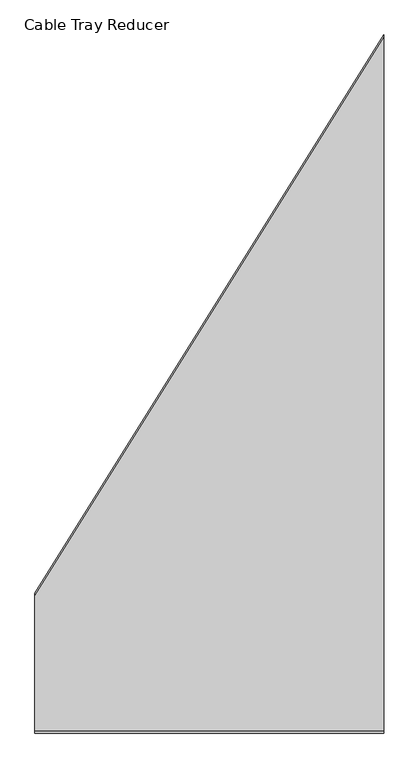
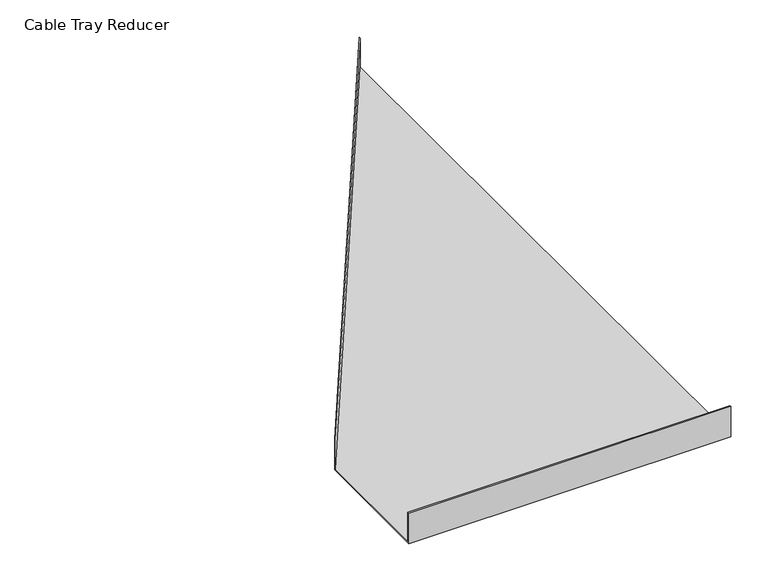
"""IFC4 building model written with IfcOpenShell, lengths in millimetres: cable carrier fitting geometry, Cable Tray Reducer : ELEC_MAIN_CT_N2402."""

import ifcopenshell
import ifcopenshell.guid

model = None  # the IFC model being written
_history = None  # IfcOwnerHistory: only IFC2X3 demands one
_inside = {}  # id of a spatial element -> (the spatial element, [elements in it])
_under = {}  # id of a project, library or spatial element -> (it, [spatial elements below it])
_declared = {}  # id of a project -> (the project, [libraries it declares])
_typed = {}  # id of a type object -> (the type object, [elements of that type])
_made_of = {}  # id of a material, layer set ... -> (it, [elements and type objects made of it])


def new_model(schema):
    """Start an empty IFC model of exactly this schema.

    Asked for "IFC4X3", IfcOpenShell would pick the latest addendum, in which some entities
    have other attributes; the version numbers below select the first issue.
    IFC2X3 requires an IfcOwnerHistory on every rooted entity: one is made here for all.
    """
    global model, _history
    if schema == "IFC4X3":
        model = ifcopenshell.file(schema_version=(4, 3, 0, 0))
    else:
        model = ifcopenshell.file(schema=schema)
    _inside.clear()
    _under.clear()
    _declared.clear()
    _typed.clear()
    _made_of.clear()
    _history = None
    if model.schema == "IFC2X3":
        org = make("IfcOrganization", Name="unknown")
        user = make(
            "IfcPersonAndOrganization",
            ThePerson=make("IfcPerson", FamilyName="unknown"),
            TheOrganization=org,
        )
        app = make(
            "IfcApplication",
            ApplicationDeveloper=org,
            Version="unknown",
            ApplicationFullName="unknown",
            ApplicationIdentifier="unknown",
        )
        _history = make(
            "IfcOwnerHistory",
            OwningUser=user,
            OwningApplication=app,
            ChangeAction="ADDED",
            CreationDate=0,
        )
    return model


def make(cls, **values):
    """One entity of the class cls with the attributes given. An attribute that is None is left unset."""
    return model.create_entity(
        cls, **{name: value for name, value in values.items() if value is not None}
    )


def rooted(cls, **values):
    """An entity with a GlobalId (a new one), such as an element, a storey or a relation."""
    return make(cls, GlobalId=ifcopenshell.guid.new(), OwnerHistory=_history, **values)


def si_unit(unit_type, name, prefix=None):
    """IfcSIUnit, for example si_unit("LENGTHUNIT", "METRE", prefix="MILLI")."""
    return make("IfcSIUnit", UnitType=unit_type, Prefix=prefix, Name=name)


def assignment(units):
    """IfcUnitAssignment: the units of a project."""
    return None if units is None else make("IfcUnitAssignment", Units=units)


def point(xyz):
    """IfcCartesianPoint."""
    return None if xyz is None else make("IfcCartesianPoint", Coordinates=xyz)


def direction(xyz):
    """IfcDirection."""
    return None if xyz is None else make("IfcDirection", DirectionRatios=xyz)


def frame(location, z_axis=None, x_axis=None):
    """IfcAxis2Placement3D, a coordinate frame: its origin and axes. An axis left out is left unset."""
    return make(
        "IfcAxis2Placement3D",
        Location=point(location),
        Axis=direction(z_axis),
        RefDirection=direction(x_axis),
    )


def origin():
    """The frame at (0, 0, 0) with its axes left unset."""
    return frame((0.0, 0.0, 0.0))


def place(relative_to, where):
    """IfcLocalPlacement: puts the frame where relative to a parent placement (None: the world)."""
    return make(
        "IfcLocalPlacement", PlacementRelTo=relative_to, RelativePlacement=where
    )


def context(
    kind, dimensions, precision=None, world=None, true_north=None, identifier=None
):
    """IfcGeometricRepresentationContext, for example the 3D "Model" context."""
    return make(
        "IfcGeometricRepresentationContext",
        ContextIdentifier=identifier,
        ContextType=kind,
        CoordinateSpaceDimension=dimensions,
        Precision=precision,
        WorldCoordinateSystem=world,
        TrueNorth=true_north,
    )


def project(units=None, contexts=None):
    """IfcProject with its units and contexts."""
    return rooted(
        "IfcProject",
        Name="project",
        RepresentationContexts=contexts,
        UnitsInContext=assignment(units),
    )


def spatial(cls, under=None, at=None, **own):
    """A site, building, storey or space (cls), placed at a placement, below another one or the project."""
    s = rooted(cls, ObjectPlacement=at, **own)
    if under is not None:
        _under.setdefault(under.id(), (under, []))[1].append(s)
    return s


def faces_of(points, faces, orient=None, outer=None):
    """IfcFace entities. A face is a list of loops; a loop is a list of indices into points, from 0.

    orient and outer hold one flag for each loop. By default every Orientation is true, the
    first loop of a face is its IfcFaceOuterBound and the others are IfcFaceBound.
    """
    made = []
    for i, loops in enumerate(faces):
        bounds = []
        for j, loop in enumerate(loops):
            is_outer = j == 0 if outer is None else outer[i][j]
            bounds.append(
                make(
                    "IfcFaceOuterBound" if is_outer else "IfcFaceBound",
                    Bound=make("IfcPolyLoop", Polygon=[points[k] for k in loop]),
                    Orientation=True if orient is None else orient[i][j],
                )
            )
        made.append(make("IfcFace", Bounds=bounds))
    return made


def faceted_brep(points, faces, orient=None, outer=None, voids=None):
    """IfcFacetedBrep: a solid bounded by flat faces; with voids (closed shells), ...WithVoids."""
    shared = [point(p) for p in points]
    hull = make("IfcClosedShell", CfsFaces=faces_of(shared, faces, orient, outer))
    if voids is None:
        return make("IfcFacetedBrep", Outer=hull)
    return make(
        "IfcFacetedBrepWithVoids",
        Outer=hull,
        Voids=[
            make(cls, CfsFaces=faces_of(shared, fs, o, b)) for cls, fs, o, b in voids
        ],
    )


def shape(context_of_items, identifier, shape_type, items):
    """IfcShapeRepresentation: the items that make up one representation, for example the "Body"."""
    return make(
        "IfcShapeRepresentation",
        ContextOfItems=context_of_items,
        RepresentationIdentifier=identifier,
        RepresentationType=shape_type,
        Items=items,
    )


def source(mapping_origin, context_of_items, identifier, shape_type, items):
    """IfcRepresentationMap: a shape defined once, which mapped items show again and again."""
    return make(
        "IfcRepresentationMap",
        MappingOrigin=mapping_origin,
        MappedRepresentation=shape(context_of_items, identifier, shape_type, items),
    )


def transform(
    local_origin,
    x_axis=None,
    y_axis=None,
    z_axis=None,
    scale=None,
    scale2=None,
    scale3=None,
    uniform=True,
):
    """IfcCartesianTransformationOperator3D, or its non-uniform kind. x_axis, y_axis, z_axis: its Axis1, 2, 3."""
    if uniform:
        return make(
            "IfcCartesianTransformationOperator3D",
            Axis1=direction(x_axis),
            Axis2=direction(y_axis),
            LocalOrigin=point(local_origin),
            Scale=scale,
            Axis3=direction(z_axis),
        )
    return make(
        "IfcCartesianTransformationOperator3DnonUniform",
        Axis1=direction(x_axis),
        Axis2=direction(y_axis),
        LocalOrigin=point(local_origin),
        Scale=scale,
        Axis3=direction(z_axis),
        Scale2=scale2,
        Scale3=scale3,
    )


def mapped(mapping_source, mapping_target):
    """IfcMappedItem: shows the shape of a source again, moved by a transform."""
    return make(
        "IfcMappedItem", MappingSource=mapping_source, MappingTarget=mapping_target
    )


def made_of(thing, what):
    """Note that an element or type object is made of a material, layer set ...; save() writes the relation."""
    if what is not None:
        _made_of.setdefault(what.id(), (what, []))[1].append(thing)
    return thing


def element(
    cls,
    number,
    at=None,
    inside=None,
    cuts=None,
    type_object=None,
    material=None,
    context=None,
    identifier="Body",
    shape_type=None,
    held_by="IfcProductDefinitionShape",
    body=None,
    shapes=None,
    **own,
):
    """One element of the class cls, such as IfcWall. Its Tag is "e" and its number.

    at: its placement. inside: the storey or other place that contains it. cuts: it is an
    opening in that element (IfcRelVoidsElement). A single representation is given by context,
    identifier, shape_type and body (its items); several are given by shapes. held_by: the class
    of the entity that holds the representations. save() writes the other relations.
    """
    e = rooted(cls, Tag="e%d" % number, ObjectPlacement=at, **own)
    if body is not None:
        shapes = [shape(context, identifier, shape_type, body)]
    if shapes is not None:
        e.Representation = make(held_by, Representations=shapes)
    if inside is not None:
        _inside.setdefault(inside.id(), (inside, []))[1].append(e)
    if cuts is not None:
        rooted(
            "IfcRelVoidsElement", RelatingBuildingElement=cuts, RelatedOpeningElement=e
        )
    if type_object is not None:
        _typed.setdefault(type_object.id(), (type_object, []))[1].append(e)
    return made_of(e, material)


def aggregate(whole, parts):
    """IfcRelAggregates: a whole, such as a stair, and the parts it consists of."""
    return rooted("IfcRelAggregates", RelatingObject=whole, RelatedObjects=parts)


def save(model, path):
    """Write the relations noted so far, then the file.

    IfcRelAggregates (storeys below a building ...), IfcRelContainedInSpatialStructure (elements
    in a storey), IfcRelDefinesByType, IfcRelAssociatesMaterial and IfcRelDeclares: one each for
    every whole, place, type object, material and project.
    """
    for whole, parts in _under.values():
        aggregate(whole, parts)
    for where, things in _inside.values():
        rooted(
            "IfcRelContainedInSpatialStructure",
            RelatedElements=things,
            RelatingStructure=where,
        )
    for kind, things in _typed.values():
        rooted("IfcRelDefinesByType", RelatedObjects=things, RelatingType=kind)
    for what, things in _made_of.values():
        rooted("IfcRelAssociatesMaterial", RelatedObjects=things, RelatingMaterial=what)
    for by, libraries in _declared.values():
        rooted("IfcRelDeclares", RelatingContext=by, RelatedDefinitions=libraries)
    model.write(path)


def cable_tray_reducer_7497fd97(model_context):
    return source(origin(), model_context, "Body", "Brep", [
        faceted_brep([(500.0, -100.0, -25.0), (500.0, 900.0, -25.0), (500.0, 900.0, 25.0), (500.0, 897.46, 25.0), (500.0, 897.46, -22.46), (500.0, -97.46, -22.46), (500.0, -97.46, 25.0), (500.0, -100.0, 25.0), (0.0, -100.0, -25.0), (0.0, -100.0, 25.0), (0.0, -97.46, 25.0), (0.0, -97.46, -22.46), (0.0, 97.46, -22.46), (0.0, 97.46, 25.0), (0.0, 100.0, 25.0), (0.0, 100.0, -25.0)], [[[0, 1, 2, 3, 4, 5, 6, 7]], [[8, 9, 10, 11, 12, 13, 14, 15]], [[8, 15, 1, 0]], [[15, 14, 2, 1]], [[14, 13, 3, 2]], [[13, 12, 4, 3]], [[12, 11, 5, 4]], [[11, 10, 6, 5]], [[10, 9, 7, 6]], [[9, 8, 0, 7]]]),
    ])


if __name__ == "__main__":
    model = new_model("IFC4")
    model_context = context("Model", 3, world=origin())
    ifc_project = project(units=[si_unit("LENGTHUNIT", "METRE", prefix="MILLI")], contexts=[model_context])
    site = spatial("IfcSite", under=ifc_project)
    building = spatial("IfcBuilding", under=site)
    placement = place(None, origin())
    cable_tray_reducer_shape = cable_tray_reducer_7497fd97(model_context)
    element("IfcCableCarrierFitting", 1, ObjectType="Cable Tray Reducer : ELEC_MAIN_CT_N2402", at=placement, inside=building, context=model_context, shape_type="MappedRepresentation", body=[
        mapped(cable_tray_reducer_shape, transform((0.0, 0.0, 0.0), x_axis=(1.0, 0.0, 0.0), y_axis=(0.0, 1.0, 0.0), z_axis=(0.0, 0.0, 1.0))),
    ])
    save(model, "model.ifc")
